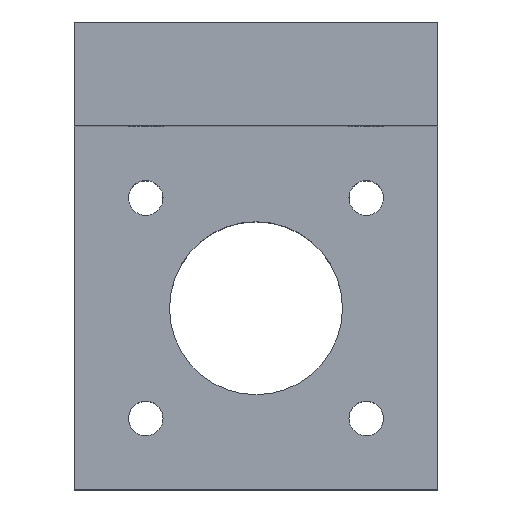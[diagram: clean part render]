
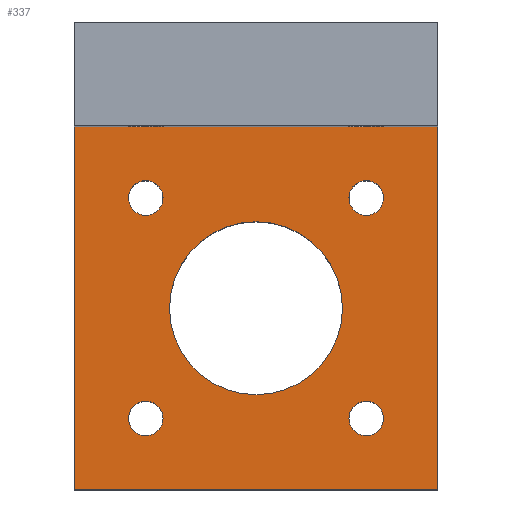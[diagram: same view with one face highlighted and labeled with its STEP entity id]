
A CAD part, top view. The second image highlights one B-rep face of the part: STEP entity #337.
In plain terms, the highlighted planar face has unit normal (0, 0, 1).
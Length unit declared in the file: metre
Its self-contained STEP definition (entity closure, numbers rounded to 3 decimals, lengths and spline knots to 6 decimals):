
#12=CIRCLE('',#363,0.002);
#14=CIRCLE('',#366,0.002);
#16=CIRCLE('',#369,0.002);
#18=CIRCLE('',#372,0.002);
#20=CIRCLE('',#375,0.01);
#67=ORIENTED_EDGE('',*,*,#135,.F.);
#68=ORIENTED_EDGE('',*,*,#133,.F.);
#69=ORIENTED_EDGE('',*,*,#131,.F.);
#70=ORIENTED_EDGE('',*,*,#129,.F.);
#71=ORIENTED_EDGE('',*,*,#127,.F.);
#72=ORIENTED_EDGE('',*,*,#119,.F.);
#73=ORIENTED_EDGE('',*,*,#126,.T.);
#74=ORIENTED_EDGE('',*,*,#143,.T.);
#75=ORIENTED_EDGE('',*,*,#138,.F.);
#119=EDGE_CURVE('',#158,#159,#190,.T.);
#126=EDGE_CURVE('',#158,#164,#197,.T.);
#127=EDGE_CURVE('',#165,#165,#12,.T.);
#129=EDGE_CURVE('',#167,#167,#14,.T.);
#131=EDGE_CURVE('',#169,#169,#16,.T.);
#133=EDGE_CURVE('',#171,#171,#18,.T.);
#135=EDGE_CURVE('',#173,#173,#20,.T.);
#138=EDGE_CURVE('',#159,#176,#199,.T.);
#143=EDGE_CURVE('',#164,#176,#204,.T.);
#158=VERTEX_POINT('',#497);
#159=VERTEX_POINT('',#499);
#164=VERTEX_POINT('',#511);
#165=VERTEX_POINT('',#515);
#167=VERTEX_POINT('',#520);
#169=VERTEX_POINT('',#525);
#171=VERTEX_POINT('',#530);
#173=VERTEX_POINT('',#535);
#176=VERTEX_POINT('',#542);
#190=LINE('',#498,#211);
#197=LINE('',#512,#218);
#199=LINE('',#541,#220);
#204=LINE('',#551,#225);
#211=VECTOR('',#402,1.);
#218=VECTOR('',#411,1.);
#220=VECTOR('',#445,1.);
#225=VECTOR('',#452,1.);
#243=EDGE_LOOP('',(#67));
#244=EDGE_LOOP('',(#68));
#245=EDGE_LOOP('',(#69));
#246=EDGE_LOOP('',(#70));
#247=EDGE_LOOP('',(#71));
#248=EDGE_LOOP('',(#72,#73,#74,#75));
#288=FACE_BOUND('',#243,.T.);
#289=FACE_BOUND('',#244,.T.);
#290=FACE_BOUND('',#245,.T.);
#291=FACE_BOUND('',#246,.T.);
#292=FACE_BOUND('',#247,.T.);
#293=FACE_BOUND('',#248,.T.);
#323=PLANE('',#378);
#337=ADVANCED_FACE('',(#288,#289,#290,#291,#292,#293),#323,.T.);
#363=AXIS2_PLACEMENT_3D('',#514,#414,#415);
#366=AXIS2_PLACEMENT_3D('',#519,#420,#421);
#369=AXIS2_PLACEMENT_3D('',#524,#426,#427);
#372=AXIS2_PLACEMENT_3D('',#529,#432,#433);
#375=AXIS2_PLACEMENT_3D('',#534,#438,#439);
#378=AXIS2_PLACEMENT_3D('',#550,#450,#451);
#402=DIRECTION('',(-1.,0.,0.));
#411=DIRECTION('',(0.,1.,0.));
#414=DIRECTION('',(0.,0.,1.));
#415=DIRECTION('',(1.,0.,0.));
#420=DIRECTION('',(0.,0.,1.));
#421=DIRECTION('',(1.,0.,0.));
#426=DIRECTION('',(0.,0.,1.));
#427=DIRECTION('',(1.,0.,0.));
#432=DIRECTION('',(0.,0.,1.));
#433=DIRECTION('',(1.,0.,0.));
#438=DIRECTION('',(0.,0.,1.));
#439=DIRECTION('',(1.,0.,0.));
#445=DIRECTION('',(0.,1.,0.));
#450=DIRECTION('',(0.,0.,1.));
#451=DIRECTION('',(1.,0.,0.));
#452=DIRECTION('',(-1.,0.,0.));
#497=CARTESIAN_POINT('',(0.021,-0.021,0.016));
#498=CARTESIAN_POINT('',(0.,-0.021,0.016));
#499=CARTESIAN_POINT('',(-0.021,-0.021,0.016));
#511=CARTESIAN_POINT('',(0.021,0.021,0.016));
#512=CARTESIAN_POINT('',(0.021,0.,0.016));
#514=CARTESIAN_POINT('',(-0.01275,-0.01275,0.016));
#515=CARTESIAN_POINT('',(-0.01075,-0.01275,0.016));
#519=CARTESIAN_POINT('',(0.01275,-0.01275,0.016));
#520=CARTESIAN_POINT('',(0.01475,-0.01275,0.016));
#524=CARTESIAN_POINT('',(-0.01275,0.01275,0.016));
#525=CARTESIAN_POINT('',(-0.01075,0.01275,0.016));
#529=CARTESIAN_POINT('',(0.01275,0.01275,0.016));
#530=CARTESIAN_POINT('',(0.01475,0.01275,0.016));
#534=CARTESIAN_POINT('',(0.,0.,0.016));
#535=CARTESIAN_POINT('',(0.01,0.,0.016));
#541=CARTESIAN_POINT('',(-0.021,0.,0.016));
#542=CARTESIAN_POINT('',(-0.021,0.021,0.016));
#550=CARTESIAN_POINT('',(0.,0.,0.016));
#551=CARTESIAN_POINT('',(0.,0.021,0.016));
